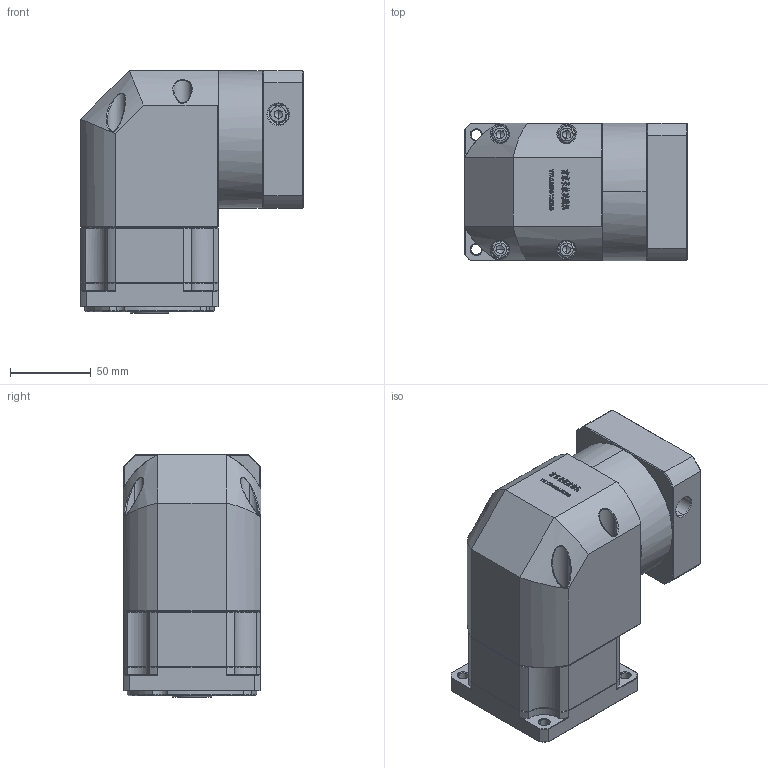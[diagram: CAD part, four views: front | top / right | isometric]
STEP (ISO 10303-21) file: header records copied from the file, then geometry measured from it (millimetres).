
FILE_DESCRIPTION (( 'STEP AP214' ), '1' );
FILE_NAME ('ZBR90-K15-L1-14-60-75-M5.step', '2022-05-07T15:10:08', ( '' ), ( 'Microsoft' ), 'SwSTEP 2.0', 'SolidWorks 2016', '' );
FILE_SCHEMA (( 'AUTOMOTIVE_DESIGN' ));
Length unit declared in the file: millimetre
Products named in the file (1): ZBR90-K15-L1-14-60-75-M5
Bounding box: 137.6 x 85 x 150 mm (x, y, z)
Volume: 1174792.9 mm3; surface area: 127523.3 mm2
Topology: 5 solids, 5 shells, 2955 faces, 7826 edges, 5003 vertices
Faces by surface type: plane 1589, bspline 596, cylinder 408, cone 338, torus 24
Entity records: 157710 total; most frequent: CARTESIAN_POINT 56606, ORIENTED_EDGE 15580, DIRECTION 11907, EDGE_CURVE 7790, VECTOR 5273, LINE 5273, VERTEX_POINT 5003, AXIS2_PLACEMENT_3D 3317
